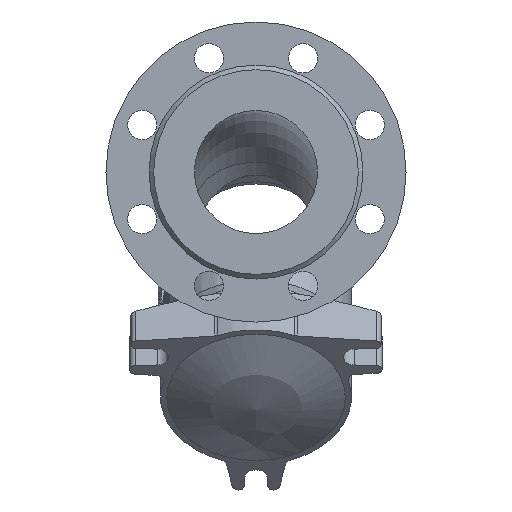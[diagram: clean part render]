
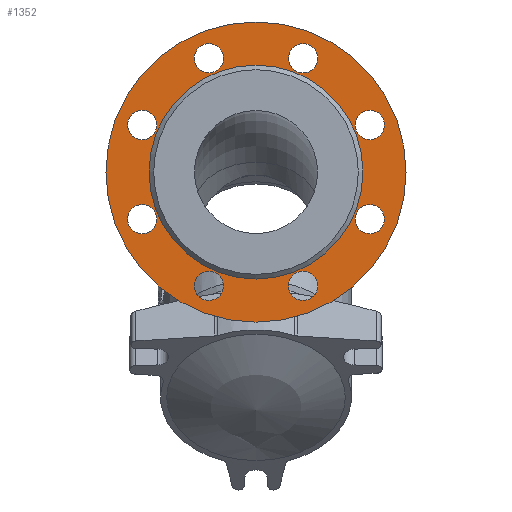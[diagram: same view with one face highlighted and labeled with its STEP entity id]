
A CAD part, front view. The second image highlights one B-rep face of the part: STEP entity #1352.
In plain terms, the highlighted planar face has unit normal (0, -1, 0).
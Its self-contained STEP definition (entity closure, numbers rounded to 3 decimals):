
#1352=ADVANCED_FACE('',(#3850,#3852,#3854,#3856,#3858,#3860,#3862,#3864,#3866,#3868),
#3870,.T.);
#3850=FACE_BOUND('',#3851,.T.);
#3851=EDGE_LOOP('',(#4887));
#3852=FACE_BOUND('',#3853,.T.);
#3853=EDGE_LOOP('',(#4888));
#3854=FACE_BOUND('',#3855,.T.);
#3855=EDGE_LOOP('',(#4889));
#3856=FACE_BOUND('',#3857,.T.);
#3857=EDGE_LOOP('',(#4890));
#3858=FACE_BOUND('',#3859,.T.);
#3859=EDGE_LOOP('',(#4891));
#3860=FACE_BOUND('',#3861,.T.);
#3861=EDGE_LOOP('',(#4892));
#3862=FACE_BOUND('',#3863,.T.);
#3863=EDGE_LOOP('',(#4893));
#3864=FACE_BOUND('',#3865,.T.);
#3865=EDGE_LOOP('',(#4894));
#3866=FACE_BOUND('',#3867,.T.);
#3867=EDGE_LOOP('',(#4895));
#3868=FACE_BOUND('',#3869,.T.);
#3869=EDGE_LOOP('',(#4896));
#3870=PLANE('',#3871);
#3871=AXIS2_PLACEMENT_3D('',#3872,#3873,#3874);
#3872=CARTESIAN_POINT('',(0.,-307.,0.));
#3873=DIRECTION('',(0.,-1.,0.));
#3874=DIRECTION('',(0.,0.,1.));
#4887=ORIENTED_EDGE('',*,*,#5329,.F.);
#4888=ORIENTED_EDGE('',*,*,#5337,.T.);
#4889=ORIENTED_EDGE('',*,*,#5336,.T.);
#4890=ORIENTED_EDGE('',*,*,#5335,.T.);
#4891=ORIENTED_EDGE('',*,*,#5334,.T.);
#4892=ORIENTED_EDGE('',*,*,#5333,.T.);
#4893=ORIENTED_EDGE('',*,*,#5332,.T.);
#4894=ORIENTED_EDGE('',*,*,#5331,.T.);
#4895=ORIENTED_EDGE('',*,*,#5347,.T.);
#4896=ORIENTED_EDGE('',*,*,#5330,.T.);
#5329=EDGE_CURVE('',#5991,#5991,#5992,.T.);
#5330=EDGE_CURVE('',#5993,#5993,#5994,.T.);
#5331=EDGE_CURVE('',#5995,#5995,#5996,.T.);
#5332=EDGE_CURVE('',#5997,#5997,#5998,.T.);
#5333=EDGE_CURVE('',#5999,#5999,#6000,.T.);
#5334=EDGE_CURVE('',#6001,#6001,#6002,.T.);
#5335=EDGE_CURVE('',#6003,#6003,#6004,.T.);
#5336=EDGE_CURVE('',#6005,#6005,#6006,.T.);
#5337=EDGE_CURVE('',#6007,#6007,#6008,.T.);
#5347=EDGE_CURVE('',#6027,#6027,#6028,.T.);
#5991=VERTEX_POINT('',#10278);
#5992=CIRCLE('',#10279,97.5);
#5993=VERTEX_POINT('',#10283);
#5994=CIRCLE('',#10284,9.5);
#5995=VERTEX_POINT('',#10288);
#5996=CIRCLE('',#10289,9.5);
#5997=VERTEX_POINT('',#10293);
#5998=CIRCLE('',#10294,9.5);
#5999=VERTEX_POINT('',#10298);
#6000=CIRCLE('',#10299,9.5);
#6001=VERTEX_POINT('',#10303);
#6002=CIRCLE('',#10304,9.5);
#6003=VERTEX_POINT('',#10308);
#6004=CIRCLE('',#10309,9.5);
#6005=VERTEX_POINT('',#10313);
#6006=CIRCLE('',#10314,9.5);
#6007=VERTEX_POINT('',#10318);
#6008=CIRCLE('',#10319,9.5);
#6027=VERTEX_POINT('',#10368);
#6028=CIRCLE('',#10369,69.5);
#10278=CARTESIAN_POINT('',(0.,-307.,97.5));
#10279=AXIS2_PLACEMENT_3D('',#10280,#10281,#10282);
#10280=CARTESIAN_POINT('',(0.,-307.,0.));
#10281=DIRECTION('',(0.,1.,0.));
#10282=DIRECTION('',(0.,0.,1.));
#10283=CARTESIAN_POINT('',(21.115,-307.,73.91));
#10284=AXIS2_PLACEMENT_3D('',#10285,#10286,#10287);
#10285=CARTESIAN_POINT('',(30.615,-307.,73.91));
#10286=DIRECTION('',(0.,1.,0.));
#10287=DIRECTION('',(-1.,0.,0.));
#10288=CARTESIAN_POINT('',(-37.332,-307.,67.193));
#10289=AXIS2_PLACEMENT_3D('',#10290,#10291,#10292);
#10290=CARTESIAN_POINT('',(-30.615,-307.,73.91));
#10291=DIRECTION('',(0.,1.,0.));
#10292=DIRECTION('',(-0.707,0.,-0.707));
#10293=CARTESIAN_POINT('',(-73.91,-307.,21.115));
#10294=AXIS2_PLACEMENT_3D('',#10295,#10296,#10297);
#10295=CARTESIAN_POINT('',(-73.91,-307.,30.615));
#10296=DIRECTION('',(0.,1.,0.));
#10297=DIRECTION('',(0.,0.,-1.));
#10298=CARTESIAN_POINT('',(-67.193,-307.,-37.332));
#10299=AXIS2_PLACEMENT_3D('',#10300,#10301,#10302);
#10300=CARTESIAN_POINT('',(-73.91,-307.,-30.615));
#10301=DIRECTION('',(0.,1.,0.));
#10302=DIRECTION('',(0.707,0.,-0.707));
#10303=CARTESIAN_POINT('',(-21.115,-307.,-73.91));
#10304=AXIS2_PLACEMENT_3D('',#10305,#10306,#10307);
#10305=CARTESIAN_POINT('',(-30.615,-307.,-73.91));
#10306=DIRECTION('',(0.,1.,0.));
#10307=DIRECTION('',(1.,0.,0.));
#10308=CARTESIAN_POINT('',(37.332,-307.,-67.193));
#10309=AXIS2_PLACEMENT_3D('',#10310,#10311,#10312);
#10310=CARTESIAN_POINT('',(30.615,-307.,-73.91));
#10311=DIRECTION('',(0.,1.,0.));
#10312=DIRECTION('',(0.707,0.,0.707));
#10313=CARTESIAN_POINT('',(73.91,-307.,-21.115));
#10314=AXIS2_PLACEMENT_3D('',#10315,#10316,#10317);
#10315=CARTESIAN_POINT('',(73.91,-307.,-30.615));
#10316=DIRECTION('',(0.,1.,0.));
#10317=DIRECTION('',(0.,0.,1.));
#10318=CARTESIAN_POINT('',(67.193,-307.,37.332));
#10319=AXIS2_PLACEMENT_3D('',#10320,#10321,#10322);
#10320=CARTESIAN_POINT('',(73.91,-307.,30.615));
#10321=DIRECTION('',(0.,1.,0.));
#10322=DIRECTION('',(-0.707,0.,0.707));
#10368=CARTESIAN_POINT('',(0.,-307.,69.5));
#10369=AXIS2_PLACEMENT_3D('',#10370,#10371,#10372);
#10370=CARTESIAN_POINT('',(0.,-307.,0.));
#10371=DIRECTION('',(0.,1.,0.));
#10372=DIRECTION('',(0.,0.,1.));
